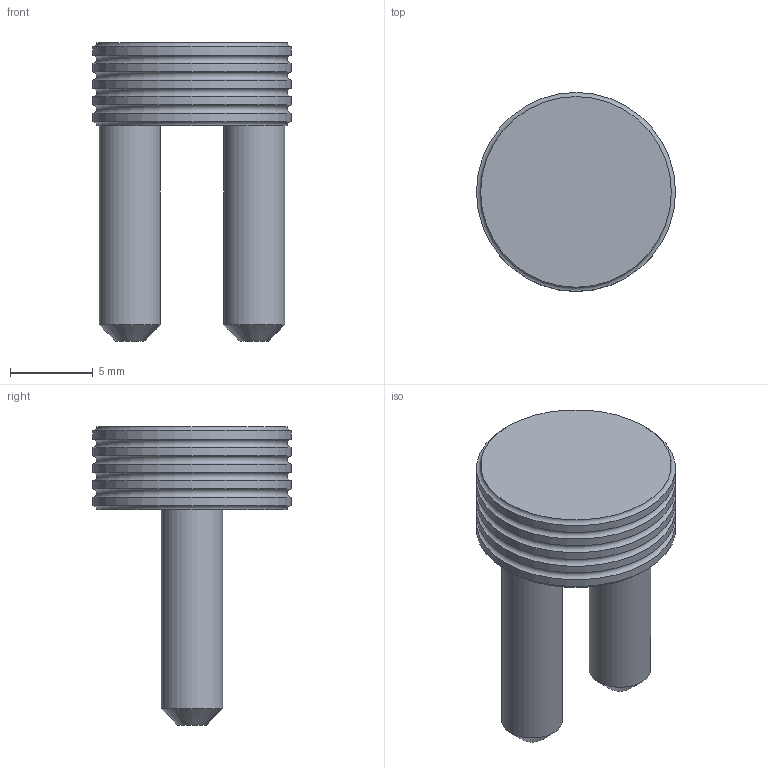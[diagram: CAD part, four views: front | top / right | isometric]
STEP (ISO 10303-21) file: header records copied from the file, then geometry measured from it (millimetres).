
FILE_DESCRIPTION(/* description */ (''),/* implementation_level */ '2;1');
FILE_NAME(/* name */ 'C:\Users\Diego\Downloads\9\Animalitos\Seguro.stp',/* time_stamp */ '2019-07-10T16:15:29-04:00',/* author */ ('Diego'),/* organization */ (''),/* preprocessor_version */ 'ST-DEVELOPER v16.5',/* originating_system */ 'Autodesk Inventor 2017',/* authorisation */ '');
FILE_SCHEMA (('AUTOMOTIVE_DESIGN { 1 0 10303 214 3 1 1 }'));
Length unit declared in the file: millimetre
Products named in the file (1): Seguro
Bounding box: 12 x 12 x 18 mm (x, y, z)
Volume: 817.3 mm3; surface area: 732.1 mm2
Topology: 1 solids, 1 shells, 19 faces, 37 edges, 22 vertices
Faces by surface type: cylinder 7, torus 6, plane 4, cone 2
Full cylindrical faces by diameter (mm): 3.7 x2, 12 x5
Entity records: 398 total; most frequent: DIRECTION 76, CARTESIAN_POINT 56, AXIS2_PLACEMENT_3D 38, EDGE_LOOP 36, ORIENTED_EDGE 36, FACE_OUTER_BOUND 19, ADVANCED_FACE 19, CIRCLE 18
